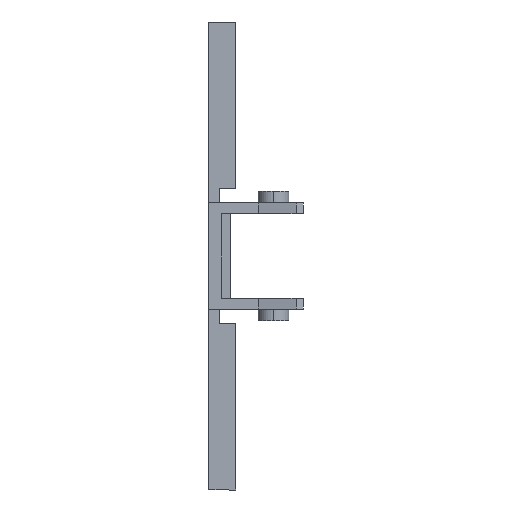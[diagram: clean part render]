
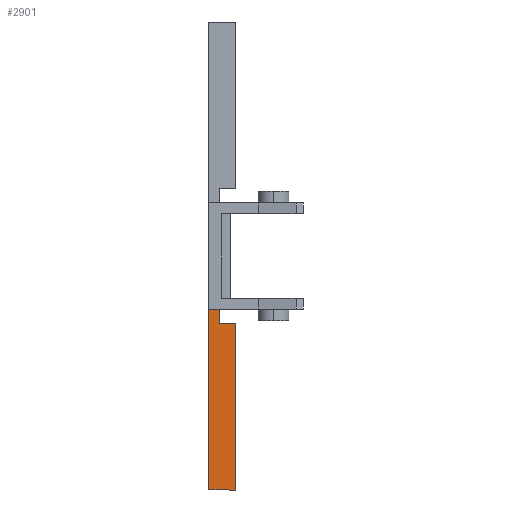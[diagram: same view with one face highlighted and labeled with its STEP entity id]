
A CAD part, front view. The second image highlights one B-rep face of the part: STEP entity #2901.
In plain terms, the highlighted planar face has unit normal (0, -1, 0).
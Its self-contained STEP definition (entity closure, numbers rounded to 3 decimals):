
#228 = CARTESIAN_POINT ( 'NONE',  ( 1.2, -9., -7.5 ) ) ;
#285 = CARTESIAN_POINT ( 'NONE',  ( 3., -9., -7.5 ) ) ;
#323 = CARTESIAN_POINT ( 'NONE',  ( 1.2, -9., -5.9 ) ) ;
#327 = CARTESIAN_POINT ( 'NONE',  ( 0., -9., -5.9 ) ) ;
#331 = CARTESIAN_POINT ( 'NONE',  ( 0., -9., -26. ) ) ;
#332 = CARTESIAN_POINT ( 'NONE',  ( 3., -9., -26. ) ) ;
#518 = DIRECTION ( 'NONE',  ( 0., 0., 1. ) ) ;
#519 = DIRECTION ( 'NONE',  ( 0., 1., 0. ) ) ;
#570 = PLANE ( 'NONE',  #1328 ) ;
#571 = CARTESIAN_POINT ( 'NONE',  ( 1.2, -9., -5. ) ) ;
#972 = EDGE_LOOP ( 'NONE', ( #1101, #1102, #1100, #1103, #1105, #1106 ) ) ;
#1100 = ORIENTED_EDGE ( 'NONE', *, *, #1534, .T. ) ;
#1101 = ORIENTED_EDGE ( 'NONE', *, *, #1370, .F. ) ;
#1102 = ORIENTED_EDGE ( 'NONE', *, *, #1573, .T. ) ;
#1103 = ORIENTED_EDGE ( 'NONE', *, *, #1375, .T. ) ;
#1105 = ORIENTED_EDGE ( 'NONE', *, *, #1527, .T. ) ;
#1106 = ORIENTED_EDGE ( 'NONE', *, *, #1559, .T. ) ;
#1230 = VECTOR ( 'NONE', #2424, 1000. ) ;
#1235 = LINE ( 'NONE', #2418, #1230 ) ;
#1238 = VECTOR ( 'NONE', #2419, 1000. ) ;
#1241 = LINE ( 'NONE', #2433, #1238 ) ;
#1328 = AXIS2_PLACEMENT_3D ( 'NONE', #571, #519, #518 ) ;
#1370 = EDGE_CURVE ( 'NONE', #2268, #2269, #1241, .T. ) ;
#1375 = EDGE_CURVE ( 'NONE', #2263, #2307, #1235, .T. ) ;
#1527 = EDGE_CURVE ( 'NONE', #2307, #2405, #1770, .T. ) ;
#1534 = EDGE_CURVE ( 'NONE', #2262, #2263, #1782, .T. ) ;
#1559 = EDGE_CURVE ( 'NONE', #2405, #2269, #1828, .T. ) ;
#1573 = EDGE_CURVE ( 'NONE', #2268, #2262, #1856, .T. ) ;
#1770 = LINE ( 'NONE', #2536, #1771 ) ;
#1771 = VECTOR ( 'NONE', #2535, 1000. ) ;
#1782 = LINE ( 'NONE', #2519, #1784 ) ;
#1784 = VECTOR ( 'NONE', #2520, 1000. ) ;
#1828 = LINE ( 'NONE', #2660, #1829 ) ;
#1829 = VECTOR ( 'NONE', #2661, 1000. ) ;
#1856 = LINE ( 'NONE', #2604, #1857 ) ;
#1857 = VECTOR ( 'NONE', #2605, 1000. ) ;
#2179 = FACE_OUTER_BOUND ( 'NONE', #972, .T. ) ;
#2262 = VERTEX_POINT ( 'NONE', #331 ) ;
#2263 = VERTEX_POINT ( 'NONE', #332 ) ;
#2268 = VERTEX_POINT ( 'NONE', #327 ) ;
#2269 = VERTEX_POINT ( 'NONE', #323 ) ;
#2307 = VERTEX_POINT ( 'NONE', #285 ) ;
#2405 = VERTEX_POINT ( 'NONE', #228 ) ;
#2418 = CARTESIAN_POINT ( 'NONE',  ( 3., -9., -7.5 ) ) ;
#2419 = DIRECTION ( 'NONE',  ( 1., 0., 0. ) ) ;
#2424 = DIRECTION ( 'NONE',  ( 0., 0., 1. ) ) ;
#2433 = CARTESIAN_POINT ( 'NONE',  ( 1.2, -9., -5.9 ) ) ;
#2519 = CARTESIAN_POINT ( 'NONE',  ( 3., -9., -26. ) ) ;
#2520 = DIRECTION ( 'NONE',  ( 1., 0., 0. ) ) ;
#2535 = DIRECTION ( 'NONE',  ( -1., 0., 0. ) ) ;
#2536 = CARTESIAN_POINT ( 'NONE',  ( 1.2, -9., -7.5 ) ) ;
#2604 = CARTESIAN_POINT ( 'NONE',  ( 0., -9., -26. ) ) ;
#2605 = DIRECTION ( 'NONE',  ( 0., 0., -1. ) ) ;
#2660 = CARTESIAN_POINT ( 'NONE',  ( 1.2, -9., -5. ) ) ;
#2661 = DIRECTION ( 'NONE',  ( 0., 0., 1. ) ) ;
#2901 = ADVANCED_FACE ( 'NONE', ( #2179 ), #570, .F. ) ;
